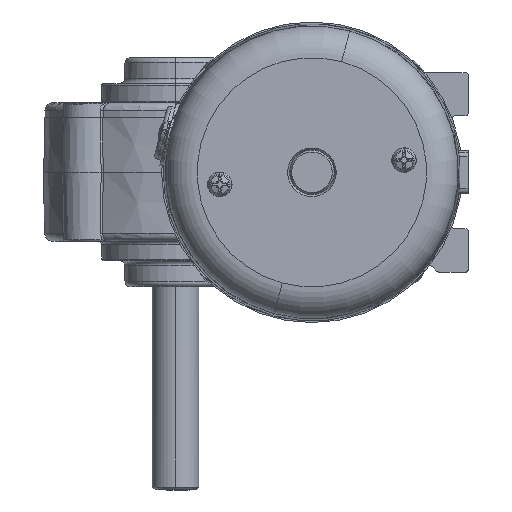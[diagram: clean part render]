
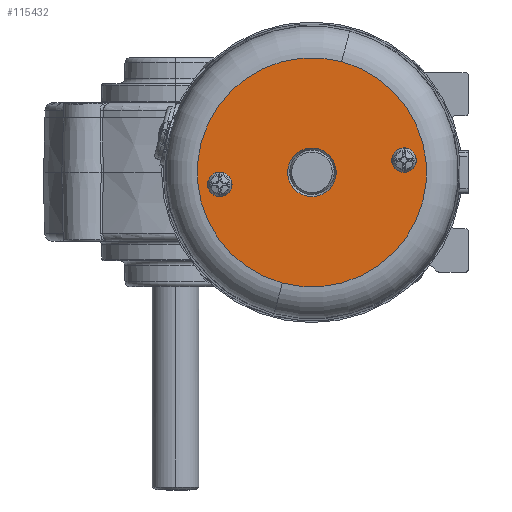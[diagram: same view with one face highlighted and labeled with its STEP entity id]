
A CAD part, left-side view. The second image highlights one B-rep face of the part: STEP entity #115432.
In plain terms, the highlighted planar face has unit normal (-1, 0, 0).
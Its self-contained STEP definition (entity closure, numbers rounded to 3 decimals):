
#999 = PLANE ( 'NONE',  #87612 ) ;
#1121 = CARTESIAN_POINT ( 'NONE',  ( 113.869, 302.81, 490.849 ) ) ;
#2399 = FACE_OUTER_BOUND ( 'NONE', #136509, .T. ) ;
#5584 = ORIENTED_EDGE ( 'NONE', *, *, #54400, .T. ) ;
#5614 = CIRCLE ( 'NONE', #23819, 2.159 ) ;
#6552 = EDGE_LOOP ( 'NONE', ( #38880, #133952 ) ) ;
#6751 = DIRECTION ( 'NONE',  ( 0., 0.966, 0.259 ) ) ;
#7077 = CARTESIAN_POINT ( 'NONE',  ( 113.869, 300.724, 490.29 ) ) ;
#8025 = DIRECTION ( 'NONE',  ( 1., 0., 0. ) ) ;
#8398 = EDGE_CURVE ( 'NONE', #131835, #19234, #135173, .T. ) ;
#12220 = CARTESIAN_POINT ( 'NONE',  ( 113.869, 328.031, 481.725 ) ) ;
#13058 = CARTESIAN_POINT ( 'NONE',  ( 113.869, 331.025, 470.548 ) ) ;
#15242 = AXIS2_PLACEMENT_3D ( 'NONE', #42125, #128932, #31433 ) ;
#18157 = DIRECTION ( 'NONE',  ( 1., 0., 0. ) ) ;
#19054 = AXIS2_PLACEMENT_3D ( 'NONE', #98607, #87187, #21730 ) ;
#19234 = VERTEX_POINT ( 'NONE', #43069 ) ;
#21730 = DIRECTION ( 'NONE',  ( 0., 0.259, -0.966 ) ) ;
#23819 = AXIS2_PLACEMENT_3D ( 'NONE', #105580, #8025, #72128 ) ;
#24903 = EDGE_CURVE ( 'NONE', #41225, #60838, #5614, .T. ) ;
#25769 = VERTEX_POINT ( 'NONE', #12220 ) ;
#28941 = EDGE_CURVE ( 'NONE', #86889, #120732, #53556, .T. ) ;
#29095 = AXIS2_PLACEMENT_3D ( 'NONE', #42374, #18157, #29578 ) ;
#29578 = DIRECTION ( 'NONE',  ( 0., 0.966, 0.259 ) ) ;
#29581 = AXIS2_PLACEMENT_3D ( 'NONE', #136338, #103596, #6751 ) ;
#30215 = DIRECTION ( 'NONE',  ( 0., 0.259, -0.966 ) ) ;
#31208 = CARTESIAN_POINT ( 'NONE',  ( 113.869, 324.807, 493.757 ) ) ;
#31433 = DIRECTION ( 'NONE',  ( 0., 0.966, 0.259 ) ) ;
#33079 = FACE_BOUND ( 'NONE', #6552, .T. ) ;
#38880 = ORIENTED_EDGE ( 'NONE', *, *, #28941, .T. ) ;
#40064 = CIRCLE ( 'NONE', #53710, 2.159 ) ;
#41030 = CARTESIAN_POINT ( 'NONE',  ( 113.869, 304.895, 491.408 ) ) ;
#41225 = VERTEX_POINT ( 'NONE', #117236 ) ;
#42125 = CARTESIAN_POINT ( 'NONE',  ( 113.869, 326.419, 487.741 ) ) ;
#42327 = CARTESIAN_POINT ( 'NONE',  ( 113.869, 326.419, 487.741 ) ) ;
#42374 = CARTESIAN_POINT ( 'NONE',  ( 113.869, 302.81, 490.849 ) ) ;
#43069 = CARTESIAN_POINT ( 'NONE',  ( 113.869, 334.02, 459.371 ) ) ;
#44594 = DIRECTION ( 'NONE',  ( 0., 0.966, 0.259 ) ) ;
#45280 = DIRECTION ( 'NONE',  ( 1., 0., 0. ) ) ;
#50173 = DIRECTION ( 'NONE',  ( 0., 0.966, 0.259 ) ) ;
#51596 = CIRCLE ( 'NONE', #15242, 6.228 ) ;
#52550 = ORIENTED_EDGE ( 'NONE', *, *, #116479, .T. ) ;
#53556 = CIRCLE ( 'NONE', #62705, 2.159 ) ;
#53710 = AXIS2_PLACEMENT_3D ( 'NONE', #126252, #92865, #50173 ) ;
#54400 = EDGE_CURVE ( 'NONE', #25769, #125663, #51596, .T. ) ;
#55132 = DIRECTION ( 'NONE',  ( -1., 0., 0. ) ) ;
#55530 = AXIS2_PLACEMENT_3D ( 'NONE', #42327, #139145, #30215 ) ;
#57876 = EDGE_CURVE ( 'NONE', #19234, #131835, #105464, .T. ) ;
#58772 = CARTESIAN_POINT ( 'NONE',  ( 113.869, 318.817, 516.111 ) ) ;
#59154 = CARTESIAN_POINT ( 'NONE',  ( 113.869, 352.113, 485.191 ) ) ;
#60838 = VERTEX_POINT ( 'NONE', #59154 ) ;
#62705 = AXIS2_PLACEMENT_3D ( 'NONE', #1121, #45280, #44594 ) ;
#64601 = ORIENTED_EDGE ( 'NONE', *, *, #24903, .T. ) ;
#72128 = DIRECTION ( 'NONE',  ( 0., 0.966, 0.259 ) ) ;
#73091 = EDGE_CURVE ( 'NONE', #125663, #25769, #113671, .T. ) ;
#76497 = FACE_BOUND ( 'NONE', #84953, .T. ) ;
#84953 = EDGE_LOOP ( 'NONE', ( #5584, #88971 ) ) ;
#86889 = VERTEX_POINT ( 'NONE', #41030 ) ;
#87187 = DIRECTION ( 'NONE',  ( 1., 0., 0. ) ) ;
#87612 = AXIS2_PLACEMENT_3D ( 'NONE', #13058, #55132, #89245 ) ;
#88971 = ORIENTED_EDGE ( 'NONE', *, *, #73091, .T. ) ;
#89245 = DIRECTION ( 'NONE',  ( 0., 0.966, 0.259 ) ) ;
#90083 = ORIENTED_EDGE ( 'NONE', *, *, #57876, .F. ) ;
#92865 = DIRECTION ( 'NONE',  ( 1., 0., 0. ) ) ;
#97325 = EDGE_LOOP ( 'NONE', ( #52550, #64601 ) ) ;
#98607 = CARTESIAN_POINT ( 'NONE',  ( 113.869, 326.419, 487.741 ) ) ;
#103596 = DIRECTION ( 'NONE',  ( 1., 0., 0. ) ) ;
#105464 = CIRCLE ( 'NONE', #19054, 29.371 ) ;
#105580 = CARTESIAN_POINT ( 'NONE',  ( 113.869, 350.027, 484.633 ) ) ;
#113671 = CIRCLE ( 'NONE', #29581, 6.228 ) ;
#115432 = ADVANCED_FACE ( 'NONE', ( #33079, #121265, #2399, #76497 ), #999, .T. ) ;
#115455 = CIRCLE ( 'NONE', #29095, 2.159 ) ;
#116479 = EDGE_CURVE ( 'NONE', #60838, #41225, #40064, .T. ) ;
#117236 = CARTESIAN_POINT ( 'NONE',  ( 113.869, 347.942, 484.074 ) ) ;
#120732 = VERTEX_POINT ( 'NONE', #7077 ) ;
#121265 = FACE_BOUND ( 'NONE', #97325, .T. ) ;
#125663 = VERTEX_POINT ( 'NONE', #31208 ) ;
#126252 = CARTESIAN_POINT ( 'NONE',  ( 113.869, 350.027, 484.633 ) ) ;
#128932 = DIRECTION ( 'NONE',  ( 1., 0., 0. ) ) ;
#131835 = VERTEX_POINT ( 'NONE', #58772 ) ;
#133952 = ORIENTED_EDGE ( 'NONE', *, *, #138027, .T. ) ;
#135035 = ORIENTED_EDGE ( 'NONE', *, *, #8398, .F. ) ;
#135173 = CIRCLE ( 'NONE', #55530, 29.371 ) ;
#136338 = CARTESIAN_POINT ( 'NONE',  ( 113.869, 326.419, 487.741 ) ) ;
#136509 = EDGE_LOOP ( 'NONE', ( #90083, #135035 ) ) ;
#138027 = EDGE_CURVE ( 'NONE', #120732, #86889, #115455, .T. ) ;
#139145 = DIRECTION ( 'NONE',  ( 1., 0., 0. ) ) ;
